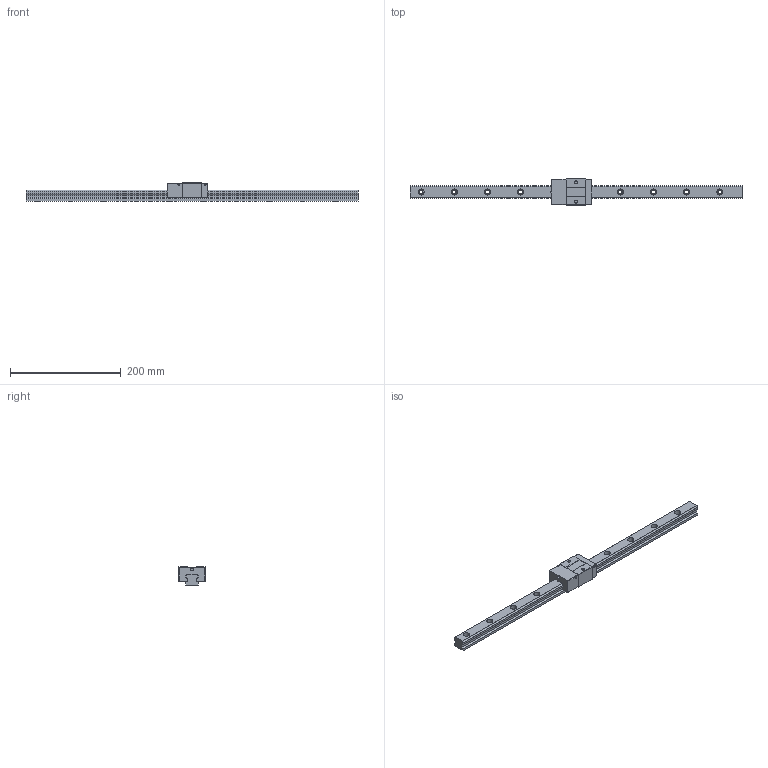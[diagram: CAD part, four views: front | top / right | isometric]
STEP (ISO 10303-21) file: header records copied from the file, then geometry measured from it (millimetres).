
FILE_DESCRIPTION (( 'STEP AP203' ), '1' );
FILE_NAME ('TRS25VS-BN.STEP', '2024-07-12T00:42:35', ( '' ), ( '' ), 'SwSTEP 2.0', 'SolidWorks 2022', '' );
FILE_SCHEMA (( 'CONFIG_CONTROL_DESIGN' ));
Length unit declared in the file: millimetre
Products named in the file (1): TRS25VS-BN
Bounding box: 600 x 48 x 33 mm (x, y, z)
Volume: 305391.3 mm3; surface area: 74815.3 mm2
Topology: 2 solids, 2 shells, 186 faces, 484 edges, 320 vertices
Faces by surface type: plane 94, cylinder 92
Entity records: 5863 total; most frequent: DIRECTION 1042, CARTESIAN_POINT 991, ORIENTED_EDGE 968, EDGE_CURVE 484, AXIS2_PLACEMENT_3D 371, VERTEX_POINT 320, VECTOR 300, LINE 300
